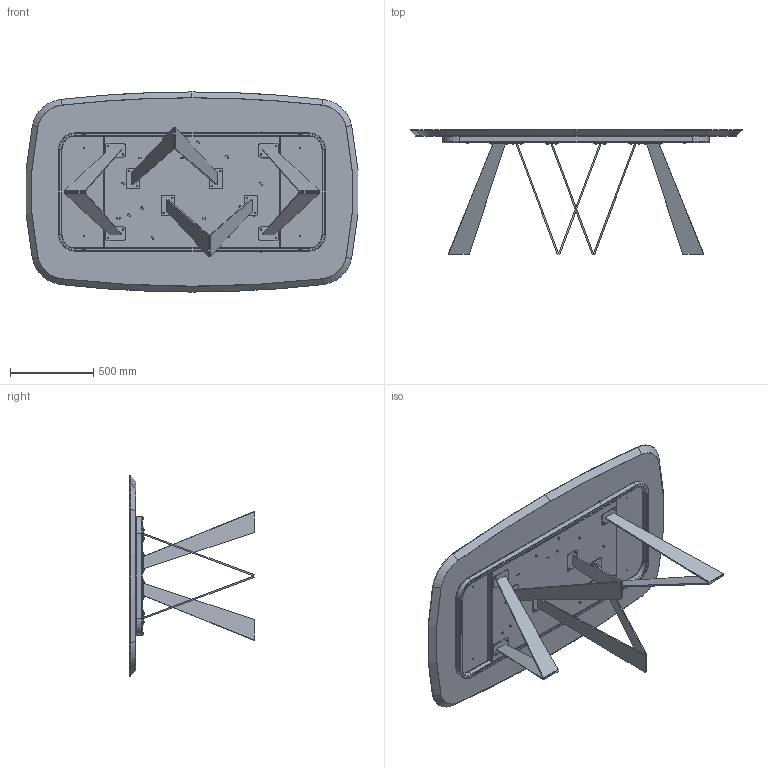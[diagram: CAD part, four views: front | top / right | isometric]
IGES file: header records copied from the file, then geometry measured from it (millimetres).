
Start section: SolidWorks IGES file using analytic representation for surfaces
Global section: file name: Y:\eforma\TECNICO\SOLIDWORKS\E-FORMA\1-TAVOLI\NOA TAVOLO\02 parts\NO41W_Noa_200x120x75h_Wood Shaped.IGS; native system: SolidWorks 2022; preprocessor: SolidWorks 2022; author: eforma.tech; date: 240807.162713; units: millimetre
Bounding box: 1990.53 x 747.8 x 1200 mm (x, y, z)
Volume: 90623175.2 mm3; surface area: 8618436.6 mm2
Topology: 70 solids, 70 shells, 1691 faces, 3872 edges, 2287 vertices
Faces by surface type: revolution 1059, plane 632
